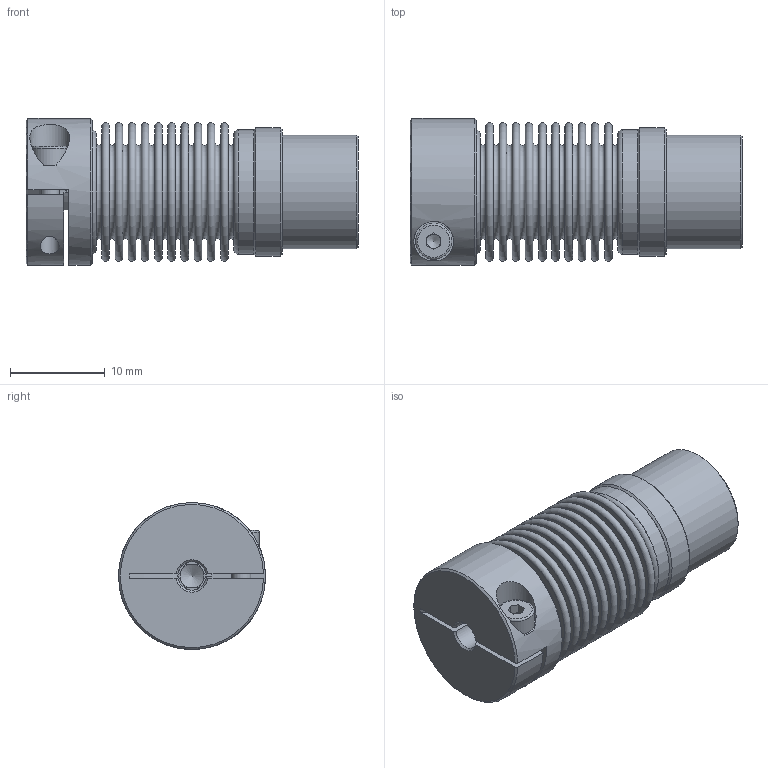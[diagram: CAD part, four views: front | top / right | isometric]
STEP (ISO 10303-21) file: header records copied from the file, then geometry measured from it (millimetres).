
FILE_DESCRIPTION( ( 'Unknown' ), '1' );
FILE_NAME( 'K:/Konstruktion/cad kunden/3D - Daten/KB3/KB3-5-27.stp', 'Unknown', ( 'Unknown' ), ( 'Unknown' ), 'PSStep 16.0.42', 'Unknown', ' ' );
FILE_SCHEMA( ( 'AUTOMOTIVE_DESIGN { 1 0 10303 214 1 1 1 1 }' ) );
Length unit declared in the file: millimetre
Products named in the file (6): Assem1; Socket Head Cap Screw_DIN_DIN 912 M2 x 8 --- 8N_5; Socket Head Cap Screw_DIN_DIN 912 M3 x 10 --- 10N_4; KN5_Standard_2; SN5-10; BL5_Standard_0
Assembly tree (5 placements, depth 2):
  Assem1
    Socket Head Cap Screw_DIN_DIN 912 M2 x 8 --- 8N_5
    Socket Head Cap Screw_DIN_DIN 912 M3 x 10 --- 10N_4
    KN5_Standard_2
    SN5-10
    BL5_Standard_0
Bounding box: 34.99 x 15.5 x 15.5 mm (x, y, z)
Volume: 3081.5 mm3; surface area: 7010.2 mm2
Topology: 5 solids, 5 shells, 173 faces, 323 edges, 208 vertices
Faces by surface type: plane 91, torus 50, cylinder 20, cone 12
Full cylindrical faces by diameter (mm): 2 x2, 2.2 x1, 2.5 x1, 3 x2, 3.8 x1, 5.5 x1, 12 x1, 12.9 x3, 13.1 x2, 13.5 x1, 15.5 x1
Entity records: 5550 total; most frequent: CARTESIAN_POINT 747, DIRECTION 742, ORIENTED_EDGE 474, AXIS2_PLACEMENT_3D 336, EDGE_LOOP 306, FACE_OUTER_BOUND 239, EDGE_CURVE 237, VERTEX_POINT 219
